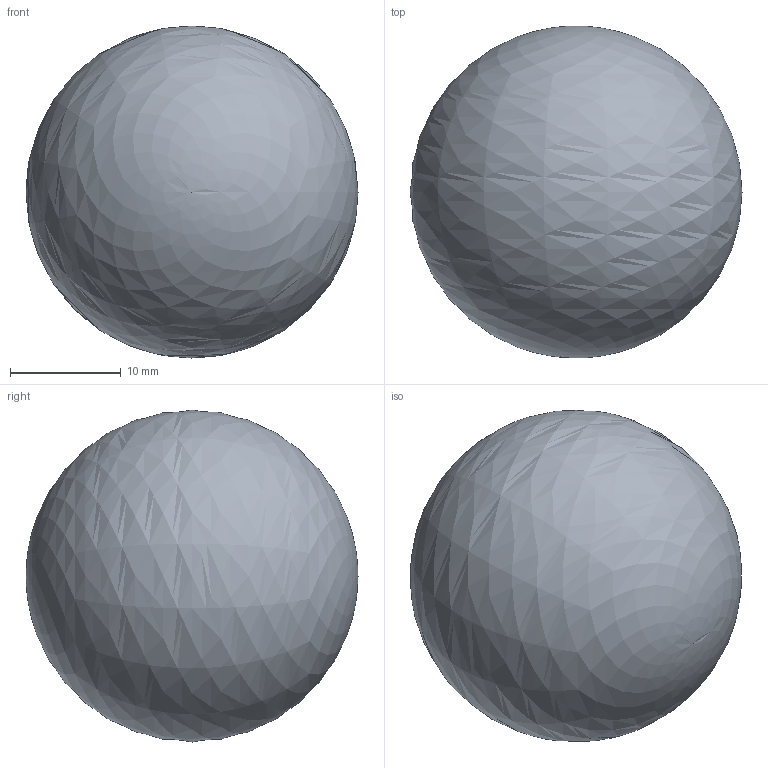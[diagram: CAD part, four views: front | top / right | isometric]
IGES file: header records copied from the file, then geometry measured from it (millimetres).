
Start section: SolidWorks IGES file using analytic representation for surfaces
Global section: file name: C:\Documents and Settings\Pc\Escritorio\Modelos 3D\Capítulo 4 (Caída)\PRACTICAS\P-9\Pieza2.IGS; native system: SolidWorks 2010; preprocessor: SolidWorks 2010; author: Pc; date: 100623.113908; units: millimetre
Bounding box: 30 x 30 x 30 mm (x, y, z)
Surface area: 5654.9 mm2 (no closed solid volume)
Topology: 0 solids, 0 shells, 2 faces, 6 edges, 4 vertices
Faces by surface type: revolution 2
